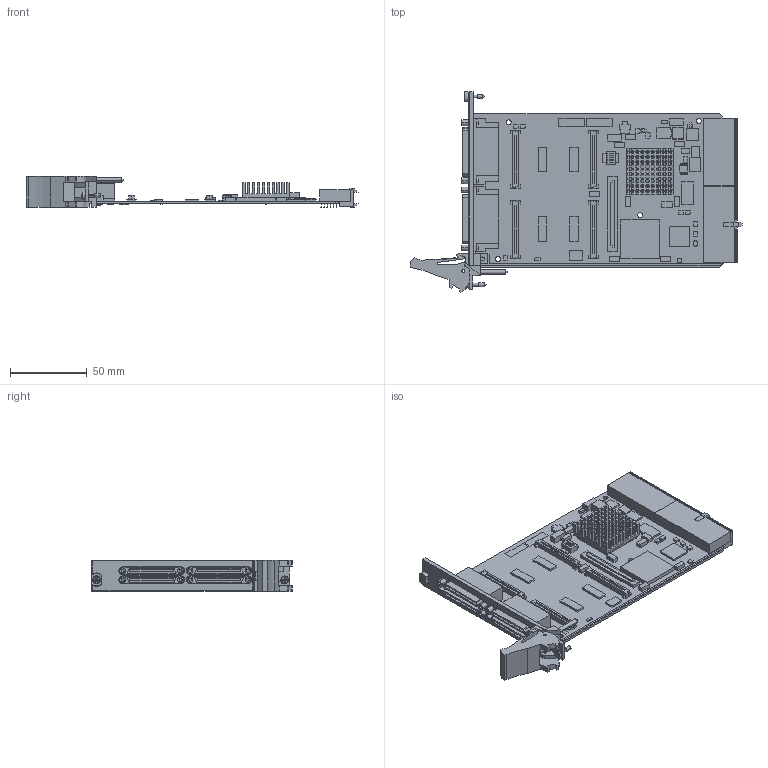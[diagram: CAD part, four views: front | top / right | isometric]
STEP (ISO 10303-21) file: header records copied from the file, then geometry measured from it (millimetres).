
FILE_DESCRIPTION((''),'2;1');
FILE_NAME('CU_PXI-781XR','2007-10-31T',('tvenable'),(''),'PRO/ENGINEER BY PARAMETRIC TECHNOLOGY CORPORATION, 2006080','PRO/ENGINEER BY PARAMETRIC TECHNOLOGY CORPORATION, 2006080','');
FILE_SCHEMA(('CONFIG_CONTROL_DESIGN'));
Length unit declared in the file: inch
Products named in the file (1): CU_PXI-781XR
Bounding box: 216.08 x 130.5 x 20.19 mm (x, y, z)
Volume: 85366.6 mm3; surface area: 65168.8 mm2
Topology: 1 solids, 1 shells, 2202 faces, 5976 edges, 3953 vertices
Faces by surface type: plane 1831, cylinder 335, cone 26, sphere 6, torus 4
Entity records: 69173 total; most frequent: CARTESIAN_POINT 12352, ORIENTED_EDGE 11944, DIRECTION 11513, EDGE_CURVE 5972, VECTOR 4801, LINE 4801, VERTEX_POINT 3953, AXIS2_PLACEMENT_3D 3356
